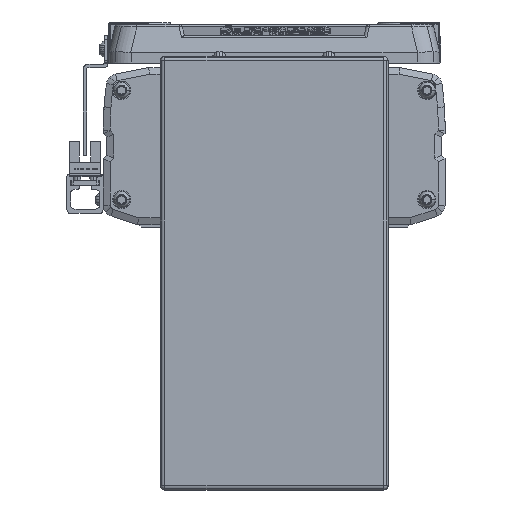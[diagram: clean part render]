
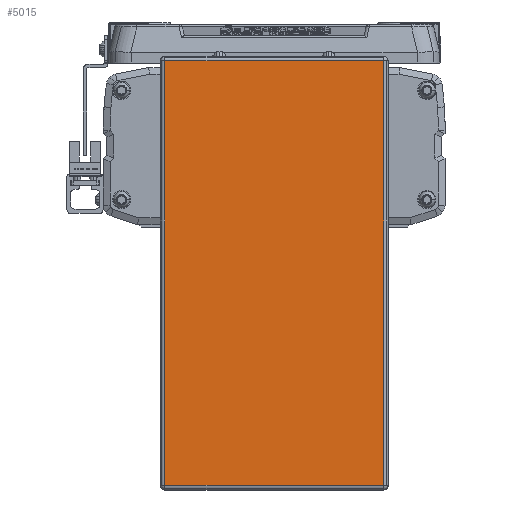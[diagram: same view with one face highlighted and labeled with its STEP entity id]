
A CAD part, left-side view. The second image highlights one B-rep face of the part: STEP entity #5015.
In plain terms, the highlighted planar face has unit normal (-1, 0, 0).
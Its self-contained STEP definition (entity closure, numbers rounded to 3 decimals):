
#5015=ADVANCED_FACE('',(#11481),#11482,.T.);
#11481=FACE_OUTER_BOUND('',#20337,.T.);
#11482=PLANE('',#20338);
#20337=EDGE_LOOP('',(#35046,#35047,#35048,#35049));
#20338=AXIS2_PLACEMENT_3D('',#35050,#35051,#35052);
#35046=ORIENTED_EDGE('',*,*,#54671,.F.);
#35047=ORIENTED_EDGE('',*,*,#54672,.F.);
#35048=ORIENTED_EDGE('',*,*,#54673,.F.);
#35049=ORIENTED_EDGE('',*,*,#53711,.F.);
#35050=CARTESIAN_POINT('',(-45.,0.,-64.2));
#35051=DIRECTION('',(-1.0,0.,0.));
#35052=DIRECTION('',(0.,1.0,0.));
#53711=EDGE_CURVE('',#65705,#65707,#65708,.T.);
#54671=EDGE_CURVE('',#67118,#65705,#67119,.T.);
#54672=EDGE_CURVE('',#67120,#67118,#67121,.T.);
#54673=EDGE_CURVE('',#65707,#67120,#67122,.T.);
#65705=VERTEX_POINT('',#81990);
#65707=VERTEX_POINT('',#81992);
#65708=LINE('',#81993,#81994);
#67118=VERTEX_POINT('',#83963);
#67119=LINE('',#83964,#83965);
#67120=VERTEX_POINT('',#83966);
#67121=LINE('',#83967,#83968);
#67122=LINE('',#83969,#83970);
#81990=CARTESIAN_POINT('',(-45.,-48.,29.));
#81992=CARTESIAN_POINT('',(-45.,-48.,-157.4));
#81993=CARTESIAN_POINT('',(-45.,-48.,-64.2));
#81994=VECTOR('',#96656,10.0);
#83963=CARTESIAN_POINT('',(-45.,48.,29.));
#83964=CARTESIAN_POINT('',(-45.,0.,29.));
#83965=VECTOR('',#97834,10.0);
#83966=CARTESIAN_POINT('',(-45.,48.,-157.4));
#83967=CARTESIAN_POINT('',(-45.,48.,-64.2));
#83968=VECTOR('',#97835,10.0);
#83969=CARTESIAN_POINT('',(-45.,0.,-157.4));
#83970=VECTOR('',#97836,10.0);
#96656=DIRECTION('',(0.,0.,-1.0));
#97834=DIRECTION('',(0.0,-1.0,0.));
#97835=DIRECTION('',(0.,0.,1.0));
#97836=DIRECTION('',(0.0,1.0,0.));
